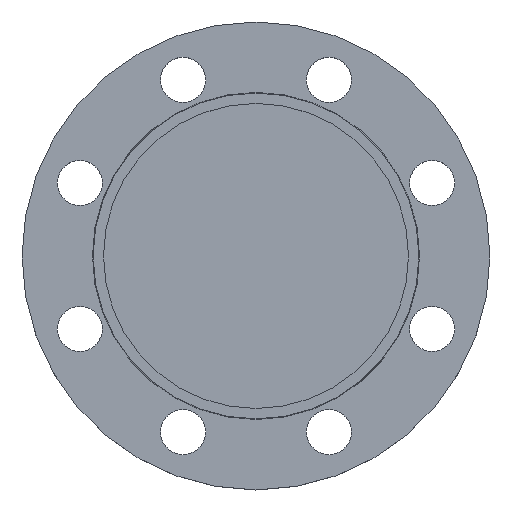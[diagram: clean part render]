
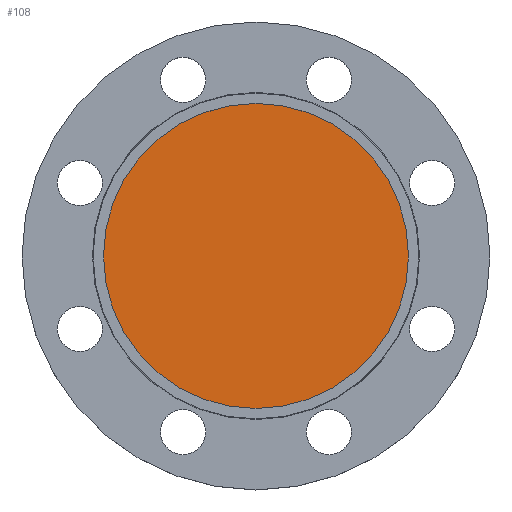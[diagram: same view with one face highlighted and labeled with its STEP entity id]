
A CAD part, top view. The second image highlights one B-rep face of the part: STEP entity #108.
In plain terms, the highlighted planar face has unit normal (0, 0, 1).
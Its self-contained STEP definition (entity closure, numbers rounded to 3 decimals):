
#31 = DIRECTION ( 'NONE',  ( 1., 0., 0. ) ) ;
#66 = CARTESIAN_POINT ( 'NONE',  ( 0., 0., -4.5 ) ) ;
#81 = CIRCLE ( 'NONE', #479, 88. ) ;
#101 = PLANE ( 'NONE',  #429 ) ;
#104 = DIRECTION ( 'NONE',  ( 0., 0., -1. ) ) ;
#108 = ADVANCED_FACE ( 'NONE', ( #724 ), #101, .T. ) ;
#127 = EDGE_CURVE ( 'NONE', #234, #674, #81, .T. ) ;
#205 = CIRCLE ( 'NONE', #704, 88. ) ;
#209 = ORIENTED_EDGE ( 'NONE', *, *, #127, .F. ) ;
#234 = VERTEX_POINT ( 'NONE', #245 ) ;
#245 = CARTESIAN_POINT ( 'NONE',  ( 88., 0., -4.5 ) ) ;
#264 = CARTESIAN_POINT ( 'NONE',  ( -88., 0., -4.5 ) ) ;
#345 = ORIENTED_EDGE ( 'NONE', *, *, #561, .F. ) ;
#347 = DIRECTION ( 'NONE',  ( 0., 0., -1. ) ) ;
#378 = CARTESIAN_POINT ( 'NONE',  ( 88., 0., -4.5 ) ) ;
#381 = DIRECTION ( 'NONE',  ( -1., 0., 0. ) ) ;
#429 = AXIS2_PLACEMENT_3D ( 'NONE', #378, #657, #31 ) ;
#479 = AXIS2_PLACEMENT_3D ( 'NONE', #728, #104, #381 ) ;
#561 = EDGE_CURVE ( 'NONE', #674, #234, #205, .T. ) ;
#627 = DIRECTION ( 'NONE',  ( -1., 0., 0. ) ) ;
#657 = DIRECTION ( 'NONE',  ( 0., 0., 1. ) ) ;
#674 = VERTEX_POINT ( 'NONE', #264 ) ;
#704 = AXIS2_PLACEMENT_3D ( 'NONE', #66, #347, #627 ) ;
#724 = FACE_OUTER_BOUND ( 'NONE', #870, .T. ) ;
#728 = CARTESIAN_POINT ( 'NONE',  ( 0., 0., -4.5 ) ) ;
#870 = EDGE_LOOP ( 'NONE', ( #345, #209 ) ) ;
